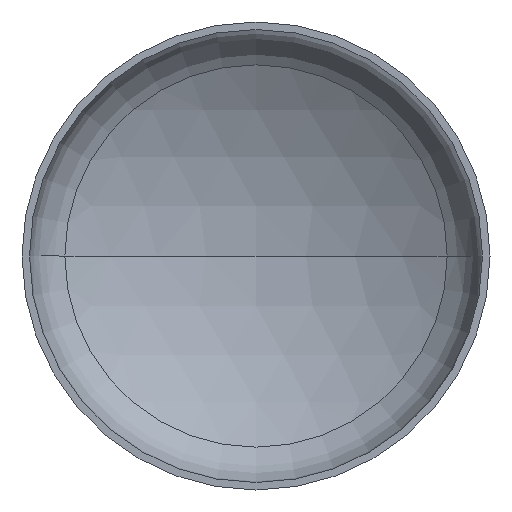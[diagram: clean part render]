
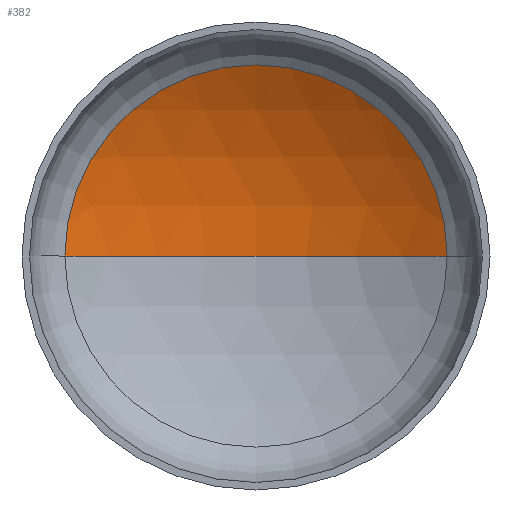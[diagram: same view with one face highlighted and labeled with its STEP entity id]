
A CAD part, front view. The second image highlights one B-rep face of the part: STEP entity #382.
In plain terms, the highlighted spherical face has radius 2880 mm.
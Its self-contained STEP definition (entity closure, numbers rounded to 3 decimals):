
#1 = ORIENTED_EDGE ( 'NONE', *, *, #161, .T. ) ;
#19 = ORIENTED_EDGE ( 'NONE', *, *, #171, .T. ) ;
#21 = EDGE_LOOP ( 'NONE', ( #58, #19, #1 ) ) ;
#39 = AXIS2_PLACEMENT_3D ( 'NONE', #226, #230, #268 ) ;
#40 = AXIS2_PLACEMENT_3D ( 'NONE', #402, #203, #216 ) ;
#49 = VERTEX_POINT ( 'NONE', #295 ) ;
#53 = AXIS2_PLACEMENT_3D ( 'NONE', #276, #107, #381 ) ;
#58 = ORIENTED_EDGE ( 'NONE', *, *, #174, .F. ) ;
#62 = VERTEX_POINT ( 'NONE', #294 ) ;
#107 = DIRECTION ( 'NONE',  ( 0., -1., 0. ) ) ;
#125 = DIRECTION ( 'NONE',  ( 0., 0., -1. ) ) ;
#161 = EDGE_CURVE ( 'NONE', #49, #62, #271, .T. ) ;
#170 = FACE_OUTER_BOUND ( 'NONE', #21, .T. ) ;
#171 = EDGE_CURVE ( 'NONE', #227, #49, #389, .T. ) ;
#174 = EDGE_CURVE ( 'NONE', #227, #62, #331, .T. ) ;
#196 = CARTESIAN_POINT ( 'NONE',  ( 0., 1000.836, 0. ) ) ;
#203 = DIRECTION ( 'NONE',  ( 0., 0., -1. ) ) ;
#216 = DIRECTION ( 'NONE',  ( -1., 0., 0. ) ) ;
#226 = CARTESIAN_POINT ( 'NONE',  ( 0., -1879.164, 0. ) ) ;
#227 = VERTEX_POINT ( 'NONE', #196 ) ;
#230 = DIRECTION ( 'NONE',  ( 0., 0., 1. ) ) ;
#268 = DIRECTION ( 'NONE',  ( 1., 0., 0. ) ) ;
#271 = CIRCLE ( 'NONE', #53, 1470.348 ) ;
#276 = CARTESIAN_POINT ( 'NONE',  ( 0., 597.22, 0. ) ) ;
#294 = CARTESIAN_POINT ( 'NONE',  ( -1470.348, 597.22, 0. ) ) ;
#295 = CARTESIAN_POINT ( 'NONE',  ( 1470.348, 597.22, 0. ) ) ;
#328 = CARTESIAN_POINT ( 'NONE',  ( 0., -1879.164, 0. ) ) ;
#331 = CIRCLE ( 'NONE', #39, 2880. ) ;
#349 = DIRECTION ( 'NONE',  ( -1., 0., 0. ) ) ;
#381 = DIRECTION ( 'NONE',  ( 1., 0., 0. ) ) ;
#382 = ADVANCED_FACE ( 'NONE', ( #170 ), #396, .F. ) ;
#384 = AXIS2_PLACEMENT_3D ( 'NONE', #328, #125, #349 ) ;
#389 = CIRCLE ( 'NONE', #40, 2880. ) ;
#396 = SPHERICAL_SURFACE ( 'NONE', #384, 2880. ) ;
#402 = CARTESIAN_POINT ( 'NONE',  ( 0., -1879.164, 0. ) ) ;
